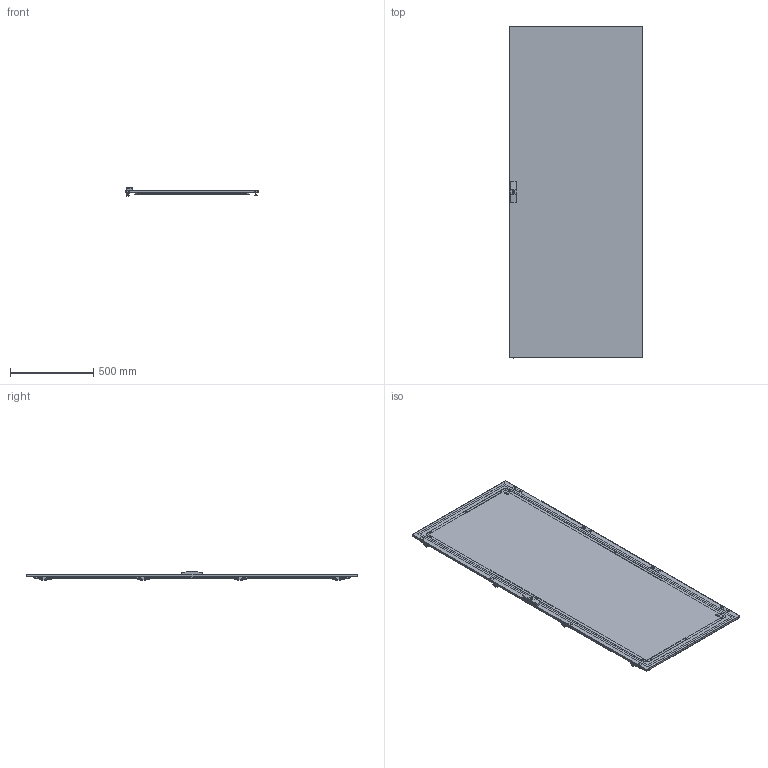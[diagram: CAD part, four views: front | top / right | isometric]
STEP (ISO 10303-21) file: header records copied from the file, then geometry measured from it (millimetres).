
FILE_DESCRIPTION (( 'STEP AP214' ), '1' );
FILE_NAME ('YKM40D-FO-DM-200-080 Äâåðü ìåòàëëè÷åñêàÿ 2000õ800ìì.STEP', '2025-09-29T10:41:57', ( '' ), ( '' ), 'SwSTEP 2.0', 'SolidWorks 2023', '' );
FILE_SCHEMA (( 'AUTOMOTIVE_DESIGN' ));
Length unit declared in the file: millimetre
Products named in the file (4): Петли; YKM40D-FO-DM-200-080 Дверь металлическая 2000х800мм; Дверь металлическая 2000х800 мм; Петли замка 800
Assembly tree (3 placements, depth 2):
  YKM40D-FO-DM-200-080 Дверь металлическая 2000х800мм
    Дверь металлическая 2000х800 мм
    Петли замка 800
    Петли
Bounding box: 795 x 1992.6 x 52.73 mm (x, y, z)
Volume: 4536244.6 mm3; surface area: 3988928.7 mm2
Topology: 9 solids, 13 shells, 3222 faces, 8741 edges, 5716 vertices
Faces by surface type: plane 2033, cylinder 993, cone 196
Entity records: 104326 total; most frequent: CARTESIAN_POINT 20109, ORIENTED_EDGE 17482, DIRECTION 17263, EDGE_CURVE 8741, VECTOR 6355, LINE 6355, VERTEX_POINT 5716, AXIS2_PLACEMENT_3D 5454
